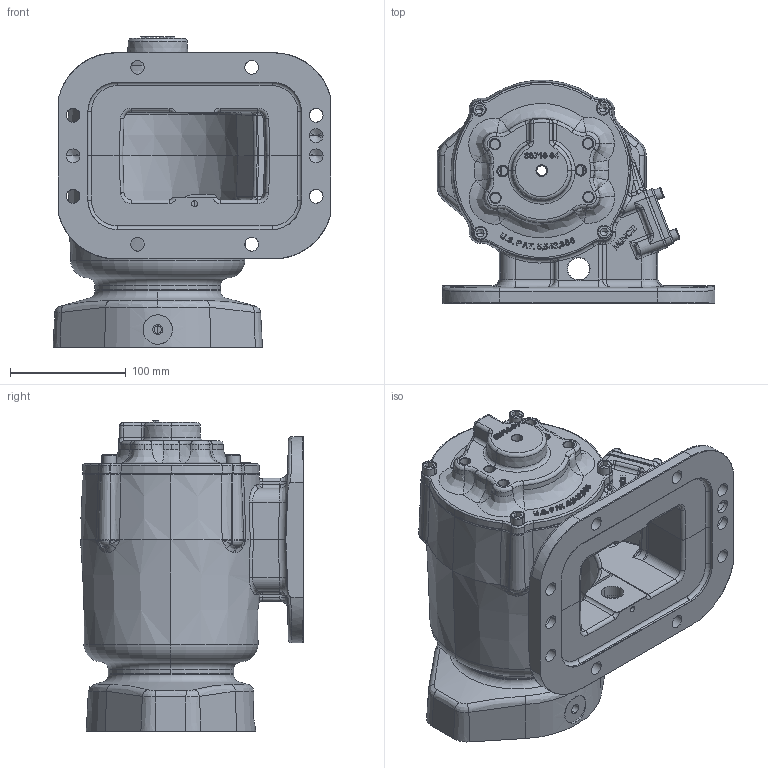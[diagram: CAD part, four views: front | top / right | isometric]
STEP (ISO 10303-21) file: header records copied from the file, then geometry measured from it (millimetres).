
FILE_DESCRIPTION (( 'STEP AP203' ), '1' );
FILE_NAME ('CS8S-XXXXX-E1LX.STEP', '2023-05-01T13:09:27', ( '' ), ( '' ), 'SwSTEP 2.0', 'SolidWorks 2021', '' );
FILE_SCHEMA (( 'CONFIG_CONTROL_DESIGN' ));
Length unit declared in the file: inch
Products named in the file (8): 10T21017; 19T35237; CS8S-XXXXX-E1LX; 14T40714; 16t34000; 19T41118; 01T42182_01T42182; 15T36717
Assembly tree (13 placements, depth 2):
  CS8S-XXXXX-E1LX
    16t34000
    15T36717
    01T42182_01T42182
    10T21017
    19T35237  x4
    19T41118  x4
    14T40714
Bounding box: 239.63 x 192.24 x 267.73 mm (x, y, z)
Volume: 1963085.8 mm3; surface area: 454681.6 mm2
Topology: 13 solids, 13 shells, 1865 faces, 4781 edges, 2941 vertices
Faces by surface type: bspline 688, plane 466, cylinder 356, cone 201, torus 130, sphere 24
Entity records: 85863 total; most frequent: CARTESIAN_POINT 47801, ORIENTED_EDGE 8738, DIRECTION 6113, EDGE_CURVE 4369, VERTEX_POINT 2728, AXIS2_PLACEMENT_3D 2241, EDGE_LOOP 1917, ADVANCED_FACE 1733
